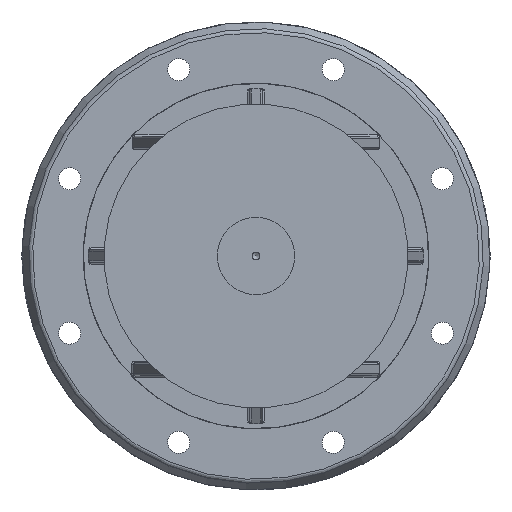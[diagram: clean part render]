
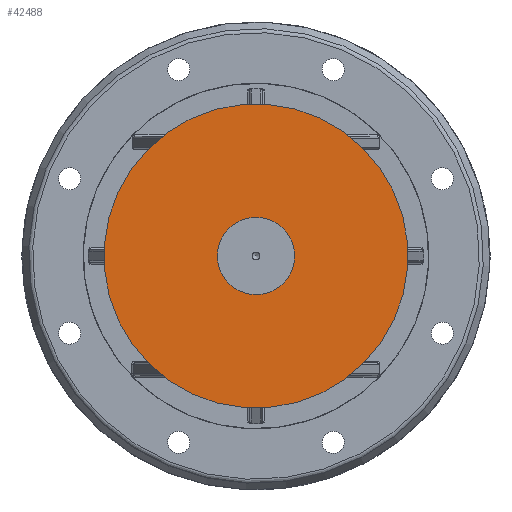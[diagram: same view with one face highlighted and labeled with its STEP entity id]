
A CAD part, left-side view. The second image highlights one B-rep face of the part: STEP entity #42488.
In plain terms, the highlighted planar face has unit normal (-1, 0, 0).
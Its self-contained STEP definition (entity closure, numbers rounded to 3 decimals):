
#1952=FACE_BOUND('',#7077,.T.);
#2787=PLANE('',#45259);
#4659=FACE_OUTER_BOUND('',#7076,.T.);
#7076=EDGE_LOOP('',(#31324));
#7077=EDGE_LOOP('',(#31325));
#15235=CIRCLE('',#44335,42.);
#15456=CIRCLE('',#45260,165.);
#16860=VERTEX_POINT('',#59363);
#18268=VERTEX_POINT('',#64155);
#20907=EDGE_CURVE('',#16860,#16860,#15235,.T.);
#23025=EDGE_CURVE('',#18268,#18268,#15456,.T.);
#31324=ORIENTED_EDGE('',*,*,#23025,.T.);
#31325=ORIENTED_EDGE('',*,*,#20907,.F.);
#42488=ADVANCED_FACE('',(#4659,#1952),#2787,.T.);
#44335=AXIS2_PLACEMENT_3D('',#59365,#48330,#48331);
#45259=AXIS2_PLACEMENT_3D('',#64154,#51817,#51818);
#45260=AXIS2_PLACEMENT_3D('',#64156,#51819,#51820);
#48330=DIRECTION('center_axis',(-1.,0.,0.));
#48331=DIRECTION('ref_axis',(0.,0.535,0.845));
#51817=DIRECTION('center_axis',(-1.,0.,0.));
#51818=DIRECTION('ref_axis',(0.,-1.,-0.008));
#51819=DIRECTION('center_axis',(-1.,0.,0.));
#51820=DIRECTION('ref_axis',(0.,-0.008,
1.));
#59363=CARTESIAN_POINT('',(-319.394,-43.465,-217.984));
#59365=CARTESIAN_POINT('Origin',(-319.394,-20.996,-182.5));
#64154=CARTESIAN_POINT('Origin',(-319.394,-20.683,-220.634));
#64155=CARTESIAN_POINT('',(-319.394,143.307,-197.656));
#64156=CARTESIAN_POINT('Origin',(-319.394,-20.996,-182.5));
